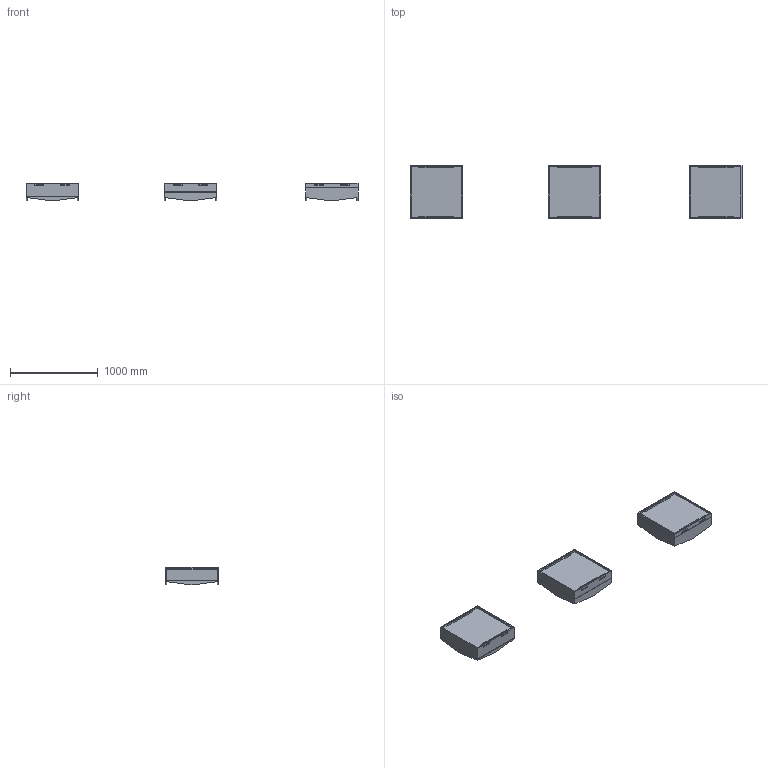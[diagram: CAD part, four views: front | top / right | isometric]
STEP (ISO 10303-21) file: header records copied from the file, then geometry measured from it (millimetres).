
FILE_DESCRIPTION(/* description */ (''),/* implementation_level */ '2;1');
FILE_NAME(/* name */ 'Coffa_Profile_3',/* time_stamp */ '2026-07-17T11:33:04-05:00',/* author */ (''),/* organization */ (''),/* preprocessor_version */ 'ST-DEVELOPER v19.2',/* originating_system */ 'Rhino 8.32',/* authorisation */ '');
FILE_SCHEMA (('CONFIG_CONTROL_DESIGN'));
Length unit declared in the file: inch
Products named in the file (1): Document
Bounding box: 3786.87 x 596.9 x 203.2 mm (x, y, z)
Volume: 27873843.9 mm3; surface area: 5126215.4 mm2
Topology: 21 solids, 21 shells, 294 faces, 768 edges, 516 vertices
Faces by surface type: plane 294
Entity records: 8345 total; most frequent: CARTESIAN_POINT 2853, ORIENTED_EDGE 1512, B_SPLINE_CURVE_WITH_KNOTS 768, EDGE_CURVE 756, VERTEX_POINT 504, EDGE_LOOP 318, DIRECTION 300, AXIS2_PLACEMENT_3D 297
